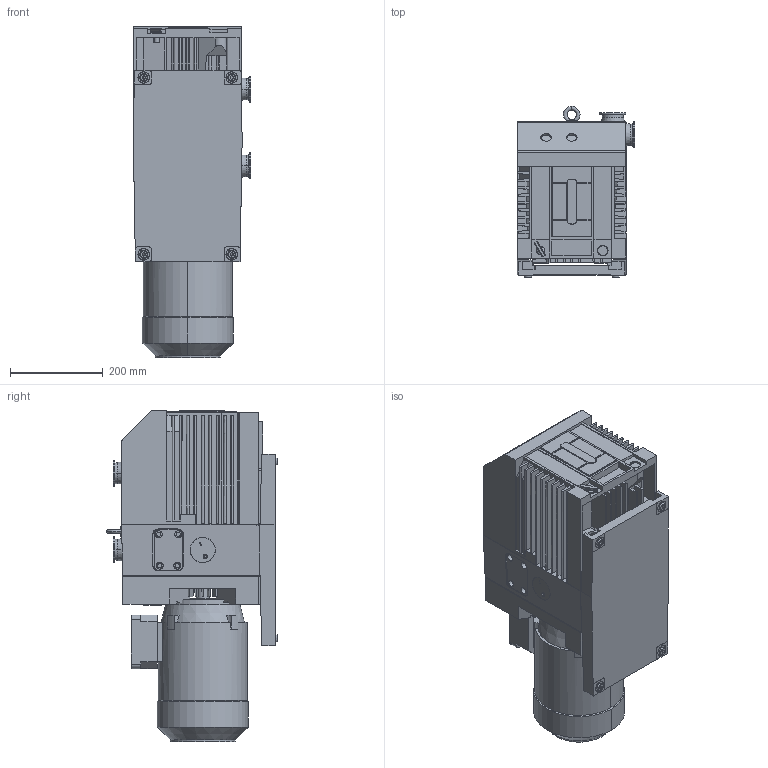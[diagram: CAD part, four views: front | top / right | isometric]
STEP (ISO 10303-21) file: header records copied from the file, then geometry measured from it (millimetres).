
FILE_DESCRIPTION((''),'2;1');
FILE_NAME('300591159_Y19_000_ASM','2016-03-09T',('56762'),('Copyright by Leybold GmbH'),'PRO/ENGINEER BY PARAMETRIC TECHNOLOGY CORPORATION, 2013320','PRO/ENGINEER BY PARAMETRIC TECHNOLOGY CORPORATION, 2013320','');
FILE_SCHEMA(('AUTOMOTIVE_DESIGN { 1 0 10303 214 1 1 1 1 }'));
Length unit declared in the file: millimetre
Products named in the file (21): 300591153_Y19_000; 300591010_Y19_000; 300590956_Y19_000; 300591125_Y19_000; 300591126_Y19_000; 300591127_Y19_000; 300591154_Y19_000; 300590949_Y19_000; 300590947_Y19_000; 300590946_Y19_000; 300591158_Y19_000_ASM; 300590938_Y19_000; 300591152_Y19_000; 300590936_Y19_000; 300590913_Y19_000; 300590922_Y19_000_ASM; 300590935_Y19_000; 300590934_Y19_000; 300590933_Y19_000; 300590931_Y19_000; 300591159_Y19_000_ASM
Assembly tree (29 placements, depth 3):
  300591159_Y19_000_ASM
    300591158_Y19_000_ASM
      300591153_Y19_000
      300591010_Y19_000
      300590956_Y19_000
      300591125_Y19_000
      300591126_Y19_000
      300591127_Y19_000
      300591154_Y19_000
      300590949_Y19_000
      300590947_Y19_000
      300590946_Y19_000
    300590938_Y19_000  x4
    300591152_Y19_000
    300590936_Y19_000
    300590922_Y19_000_ASM
      300590913_Y19_000
    300590935_Y19_000  x3
    300590934_Y19_000  x4
    300590933_Y19_000
    300590931_Y19_000  x2
Bounding box: 253.5 x 369.5 x 715.5 mm (x, y, z)
Volume: 36846557.7 mm3; surface area: 2234178.1 mm2
Topology: 26 solids, 29 shells, 1390 faces, 3558 edges, 2321 vertices
Faces by surface type: plane 864, cylinder 357, cone 128, bspline 27, torus 8, sphere 4, extrusion 2
Entity records: 38115 total; most frequent: CARTESIAN_POINT 7952, ORIENTED_EDGE 6002, DIRECTION 5998, EDGE_CURVE 3001, VECTOR 2134, LINE 2132, VERTEX_POINT 1966, AXIS2_PLACEMENT_3D 1932
